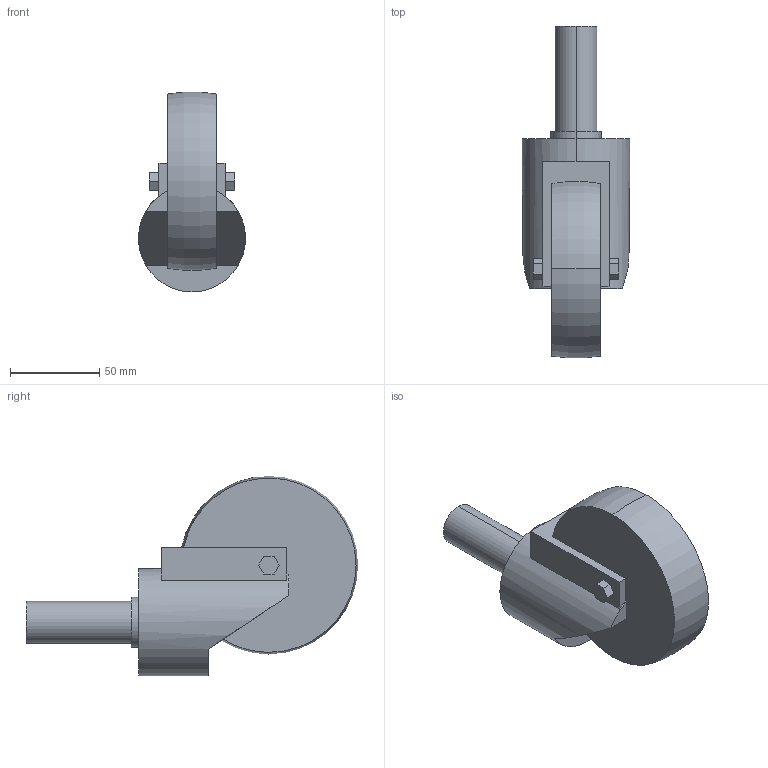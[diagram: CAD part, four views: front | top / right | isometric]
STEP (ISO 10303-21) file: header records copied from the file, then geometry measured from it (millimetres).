
FILE_DESCRIPTION (( 'STEP AP214' ), '1' );
FILE_NAME ('GES-100.step', '2024-02-15T04:38:09', ( 'catia' ), ( 'HP Inc.' ), 'SwSTEP 2.0', 'SolidWorks 2021', '' );
FILE_SCHEMA (( 'AUTOMOTIVE_DESIGN' ));
Length unit declared in the file: millimetre
Products named in the file (1): GES-100
Bounding box: 60 x 185.86 x 111.86 mm (x, y, z)
Volume: 383621.2 mm3; surface area: 40716.1 mm2
Topology: 1 solids, 1 shells, 41 faces, 105 edges, 70 vertices
Faces by surface type: plane 31, cylinder 7, torus 3
Entity records: 1293 total; most frequent: CARTESIAN_POINT 239, DIRECTION 213, ORIENTED_EDGE 210, EDGE_CURVE 105, VECTOR 73, LINE 73, VERTEX_POINT 70, AXIS2_PLACEMENT_3D 70
